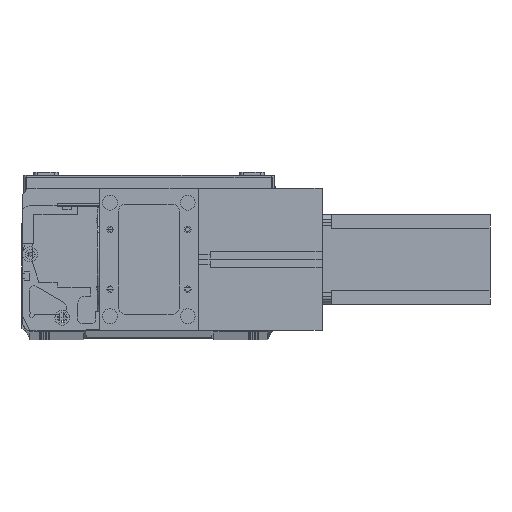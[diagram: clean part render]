
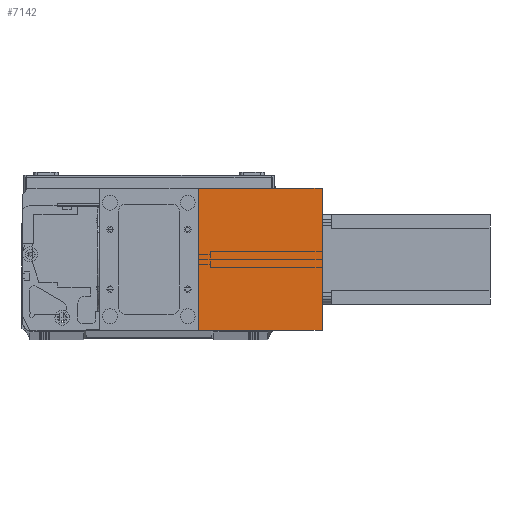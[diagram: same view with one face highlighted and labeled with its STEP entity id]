
A CAD part, top view. The second image highlights one B-rep face of the part: STEP entity #7142.
In plain terms, the highlighted planar face has unit normal (0, 0, 1) as drawn and (1, 0, 0) by its records, which use the part's own axes.
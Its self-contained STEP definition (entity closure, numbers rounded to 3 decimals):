
#1081 = VERTEX_POINT ( 'NONE', #6963 ) ;
#1115 = DIRECTION ( 'NONE',  ( 0., 0., -1. ) ) ;
#1216 = CARTESIAN_POINT ( 'NONE',  ( 82., 0., 83. ) ) ;
#1326 = DIRECTION ( 'NONE',  ( 0., 1., 0. ) ) ;
#2213 = ORIENTED_EDGE ( 'NONE', *, *, #9316, .F. ) ;
#2282 = LINE ( 'NONE', #1216, #8132 ) ;
#3244 = VECTOR ( 'NONE', #1326, 1000. ) ;
#5140 = LINE ( 'NONE', #30132, #18143 ) ;
#5188 = CARTESIAN_POINT ( 'NONE',  ( 82., 0., 83. ) ) ;
#5364 = VECTOR ( 'NONE', #17360, 1000. ) ;
#6268 = CARTESIAN_POINT ( 'NONE',  ( 82., 0., 83. ) ) ;
#6877 = ORIENTED_EDGE ( 'NONE', *, *, #29059, .F. ) ;
#6963 = CARTESIAN_POINT ( 'NONE',  ( 82., 95., 83. ) ) ;
#7142 = ADVANCED_FACE ( 'NONE', ( #27492 ), #10508, .F. ) ;
#7528 = CARTESIAN_POINT ( 'NONE',  ( 82., 0., 0. ) ) ;
#8132 = VECTOR ( 'NONE', #1115, 1000. ) ;
#9316 = EDGE_CURVE ( 'NONE', #1081, #23503, #5140, .T. ) ;
#9669 = CARTESIAN_POINT ( 'NONE',  ( 82., 95., 0. ) ) ;
#9763 = DIRECTION ( 'NONE',  ( 0., 0., 1. ) ) ;
#10200 = DIRECTION ( 'NONE',  ( -1., 0., 0. ) ) ;
#10508 = PLANE ( 'NONE',  #23172 ) ;
#12018 = EDGE_CURVE ( 'NONE', #14862, #29929, #2282, .T. ) ;
#12433 = CARTESIAN_POINT ( 'NONE',  ( 82., 0., 83. ) ) ;
#14224 = EDGE_LOOP ( 'NONE', ( #28779, #2213, #6877, #19024 ) ) ;
#14862 = VERTEX_POINT ( 'NONE', #6268 ) ;
#15814 = EDGE_CURVE ( 'NONE', #29929, #23503, #22645, .T. ) ;
#17360 = DIRECTION ( 'NONE',  ( 0., 1., 0. ) ) ;
#18143 = VECTOR ( 'NONE', #30098, 1000. ) ;
#19024 = ORIENTED_EDGE ( 'NONE', *, *, #12018, .T. ) ;
#22645 = LINE ( 'NONE', #30156, #3244 ) ;
#23172 = AXIS2_PLACEMENT_3D ( 'NONE', #12433, #10200, #9763 ) ;
#23503 = VERTEX_POINT ( 'NONE', #9669 ) ;
#27492 = FACE_OUTER_BOUND ( 'NONE', #14224, .T. ) ;
#28779 = ORIENTED_EDGE ( 'NONE', *, *, #15814, .T. ) ;
#29059 = EDGE_CURVE ( 'NONE', #14862, #1081, #30058, .T. ) ;
#29929 = VERTEX_POINT ( 'NONE', #7528 ) ;
#30058 = LINE ( 'NONE', #5188, #5364 ) ;
#30098 = DIRECTION ( 'NONE',  ( 0., 0., -1. ) ) ;
#30132 = CARTESIAN_POINT ( 'NONE',  ( 82., 95., 83. ) ) ;
#30156 = CARTESIAN_POINT ( 'NONE',  ( 82., 0., 0. ) ) ;
